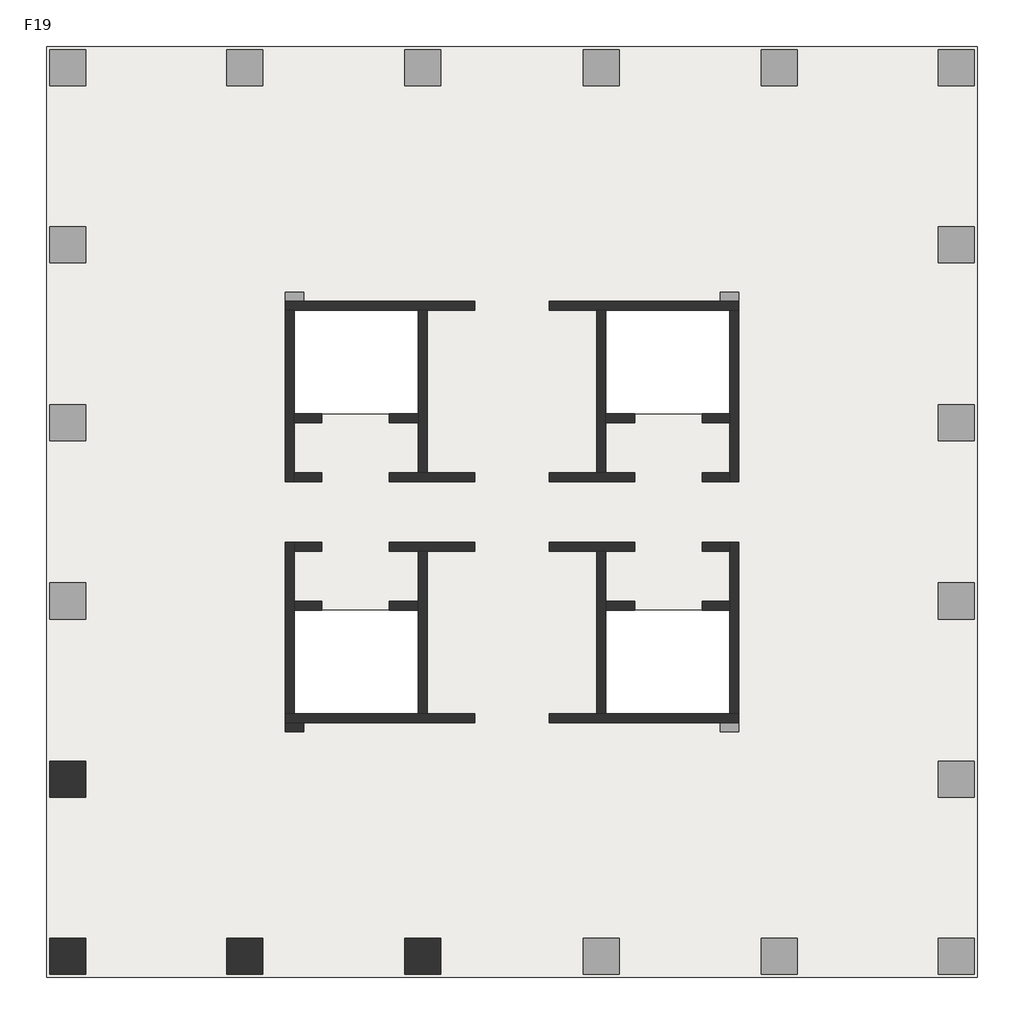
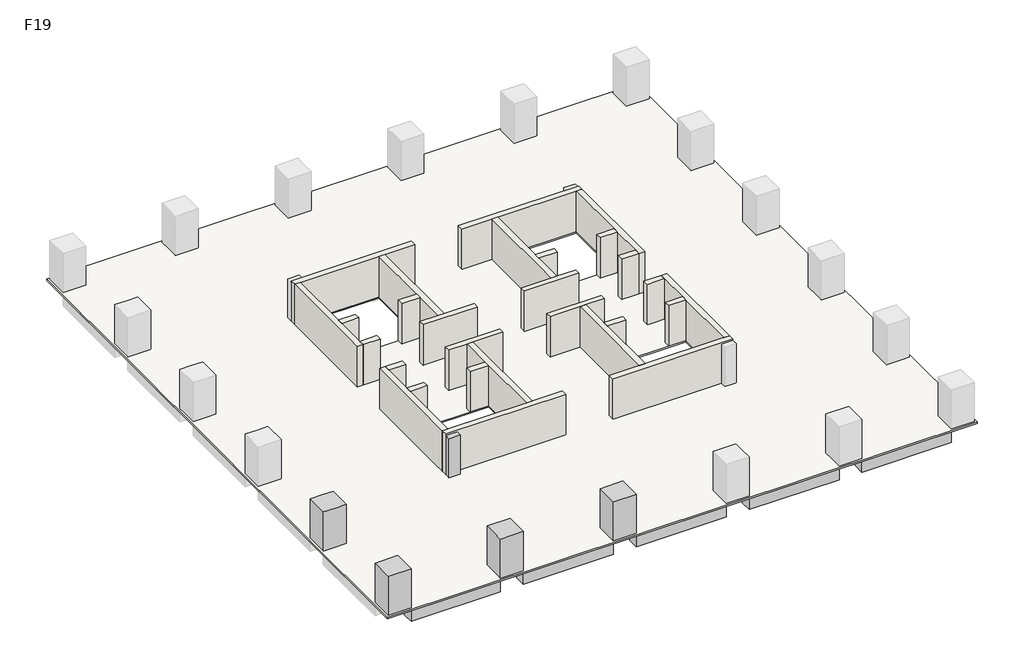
# One storey, part 1 of 2: 28 walls, 5 columns, 3 beams, 1 slab.
"""IFC4 building model written with IfcOpenShell, lengths in millimetres."""

from ifc_helpers import new_model, si_unit, frame, origin, place, context, project, spatial, polyline, outline, extrude, faceted_brep, element, save

model = new_model("IFC4")

# Units and contexts
model_context = context("Model", 3, world=origin())
ifc_project = project(units=[si_unit("LENGTHUNIT", "METRE", prefix="MILLI")], contexts=[model_context])

# Site, building, storey
site = spatial("IfcSite", under=ifc_project)
building = spatial("IfcBuilding", under=site)
storey = spatial("IfcBuildingStorey", under=building, Name="F19", Elevation=75000.0)

# Beams
placement = place(None, origin())
element("IfcBeam", 1, ObjectType="混凝土 - 矩形梁 : KL(5)-800x1000", at=placement, inside=storey, context=model_context, shape_type="SweptSolid", body=[
    extrude(outline(polyline([(-12472.6742169, -13948.9501342), (-12472.6742169, -13148.9501342), (-6222.6742169, -13148.9501342), (-6222.6742169, -13948.9501342), (-12472.6742169, -13948.9501342)])), frame((0.0, 0.0, 74000.0), z_axis=(0.0, 0.0, 1.0), x_axis=(1.0, 0.0, 0.0)), (0.0, 0.0, 1.0), 900.0),
    extrude(outline(polyline([(25327.3257831, -13148.9501342), (25327.3257831, -13948.9501342), (19077.3257831, -13948.9501342), (19077.3257831, -13148.9501342), (25327.3257831, -13148.9501342)])), frame((0.0, 0.0, 74000.0), z_axis=(0.0, 0.0, 1.0), x_axis=(1.0, 0.0, 0.0)), (0.0, 0.0, 1.0), 900.0),
    extrude(outline(polyline([(-4622.6742169, -13948.9501342), (-4622.6742169, -13148.9501342), (1677.3257831, -13148.9501342), (1677.3257831, -13948.9501342), (-4622.6742169, -13948.9501342)])), frame((0.0, 0.0, 74000.0), z_axis=(0.0, 0.0, 1.0), x_axis=(1.0, 0.0, 0.0)), (0.0, 0.0, 1.0), 900.0),
    extrude(outline(polyline([(3277.3257831, -13948.9501342), (3277.3257831, -13148.9501342), (9577.3257831, -13148.9501342), (9577.3257831, -13948.9501342), (3277.3257831, -13948.9501342)])), frame((0.0, 0.0, 74000.0), z_axis=(0.0, 0.0, 1.0), x_axis=(1.0, 0.0, 0.0)), (0.0, 0.0, 1.0), 900.0),
    extrude(outline(polyline([(11177.3257831, -13948.9501342), (11177.3257831, -13148.9501342), (17477.3257831, -13148.9501342), (17477.3257831, -13948.9501342), (11177.3257831, -13948.9501342)])), frame((0.0, 0.0, 74000.0), z_axis=(0.0, 0.0, 1.0), x_axis=(1.0, 0.0, 0.0)), (0.0, 0.0, 1.0), 900.0),
])
element("IfcBeam", 2, ObjectType="混凝土 - 矩形梁 : L1-800x500", at=placement, inside=storey, context=model_context, shape_type="Brep", body=[
    faceted_brep([(-12472.6742169, -5512.1353397, 74500.0), (-3746.9473979, -3341.556529, 74500.0), (-3173.6696907, -3198.9501342, 74500.0), (-3173.6696907, -3198.9501342, 74900.0), (-3746.9473979, -3341.556529, 74900.0), (-12472.6742169, -5512.1353397, 74900.0), (-3622.6742169, -3198.9501342, 74500.0), (-12472.6742169, -4687.7549784, 74500.0), (-3622.6742169, -2486.2624411, 74500.0), (-3622.6742169, -2798.9501342, 74500.0), (-12472.6742169, -4687.7549784, 74900.0), (-3622.6742169, -2486.2624411, 74900.0), (-3622.6742169, -3198.9501342, 74900.0)], [[[0, 1, 2, 3, 4, 5]], [[6, 2, 1, 0, 7, 8, 9]], [[8, 7, 10, 11]], [[2, 6, 12, 3]], [[9, 8, 11, 12, 6]], [[7, 0, 5, 10]], [[5, 4, 3, 12, 11, 10]]]),
])
element("IfcBeam", 3, ObjectType="混凝土 - 矩形梁 : L1-800x500", at=placement, inside=storey, context=model_context, shape_type="SweptSolid", body=[
    extrude(outline(polyline([(-3746.9473979, -3341.556529), (-3173.6696907, -3198.9501342), (-2898.7618154, -3198.9501342), (-4843.6893517, -12348.9501342), (-5661.5624638, -12348.9501342), (-3746.9473979, -3341.556529)])), frame((0.0, 0.0, 74500.0), z_axis=(0.0, 0.0, 1.0), x_axis=(1.0, 0.0, 0.0)), (0.0, 0.0, 1.0), 400.0),
])

# Columns
element("IfcColumn", 4, ObjectType="混凝土 - 矩形 - 柱 : Z1-1600x1600", at=placement, inside=storey, context=model_context, shape_type="Brep", body=[
    faceted_brep([(-12472.6742169, -4498.9501342, 75000.0), (-12472.6742169, -6098.9501342, 75000.0), (-14072.6742169, -6098.9501342, 75000.0), (-14072.6742169, -4498.9501342, 75000.0), (-12472.6742169, -4498.9501342, 77900.0), (-12472.6742169, -6098.9501342, 77900.0), (-13272.6742169, -6098.9501342, 77900.0), (-14072.6742169, -6098.9501342, 77900.0), (-14072.6742169, -6098.9501342, 77000.0), (-14072.6742169, -4498.9501342, 77900.0), (-14072.6742169, -4498.9501342, 77000.0), (-13272.6742169, -4498.9501342, 77900.0)], [[[0, 1, 2, 3]], [[1, 0, 4, 5]], [[2, 1, 5, 6, 7, 8]], [[3, 2, 8, 7, 9, 10]], [[0, 3, 10, 9, 11, 4]], [[5, 4, 11, 9, 7, 6]]]),
])
element("IfcColumn", 5, ObjectType="混凝土 - 矩形 - 柱 : Z1-1600x1600", at=placement, inside=storey, context=model_context, shape_type="SweptSolid", body=[
    extrude(outline(polyline([(-12472.6742169, -12348.9501342), (-12472.6742169, -13948.9501342), (-14072.6742169, -13948.9501342), (-14072.6742169, -12348.9501342), (-12472.6742169, -12348.9501342)])), frame((0.0, 0.0, 75000.0), z_axis=(0.0, 0.0, 1.0), x_axis=(1.0, 0.0, 0.0)), (0.0, 0.0, 1.0), 2900.0),
])
element("IfcColumn", 6, ObjectType="混凝土 - 矩形 - 柱 : Z1-1600x1600", at=placement, inside=storey, context=model_context, shape_type="Brep", body=[
    faceted_brep([(-4622.6742169, -12348.9501342, 75000.0), (-4622.6742169, -13948.9501342, 75000.0), (-6222.6742169, -13948.9501342, 75000.0), (-6222.6742169, -12348.9501342, 75000.0), (-4622.6742169, -12348.9501342, 77900.0), (-4622.6742169, -13148.9501342, 77900.0), (-4622.6742169, -13948.9501342, 77900.0), (-4622.6742169, -13948.9501342, 77000.0), (-6222.6742169, -13948.9501342, 77900.0), (-6222.6742169, -13948.9501342, 77000.0), (-6222.6742169, -13148.9501342, 77900.0), (-6222.6742169, -12348.9501342, 77900.0)], [[[0, 1, 2, 3]], [[1, 0, 4, 5, 6, 7]], [[2, 1, 7, 6, 8, 9]], [[3, 2, 9, 8, 10, 11]], [[0, 3, 11, 4]], [[6, 5, 4, 11, 10, 8]]]),
])
element("IfcColumn", 7, ObjectType="混凝土 - 矩形 - 柱 : Z1-1600x1600", at=placement, inside=storey, context=model_context, shape_type="Brep", body=[
    faceted_brep([(3277.3257831, -12348.9501342, 75000.0), (3277.3257831, -13948.9501342, 75000.0), (1677.3257831, -13948.9501342, 75000.0), (1677.3257831, -12348.9501342, 75000.0), (3277.3257831, -12348.9501342, 77900.0), (3277.3257831, -13148.9501342, 77900.0), (3277.3257831, -13948.9501342, 77900.0), (3277.3257831, -13948.9501342, 77000.0), (1677.3257831, -13948.9501342, 77900.0), (1677.3257831, -13948.9501342, 77000.0), (1677.3257831, -13148.9501342, 77900.0), (1677.3257831, -12348.9501342, 77900.0)], [[[0, 1, 2, 3]], [[1, 0, 4, 5, 6, 7]], [[2, 1, 7, 6, 8, 9]], [[3, 2, 9, 8, 10, 11]], [[0, 3, 11, 4]], [[6, 5, 4, 11, 10, 8]]]),
])
element("IfcColumn", 8, ObjectType="混凝土 - 矩形 - 柱 : Z2-800x800", at=placement, inside=storey, context=model_context, shape_type="SweptSolid", body=[
    extrude(outline(polyline([(-2822.6742169, -3198.9501342), (-3622.6742169, -3198.9501342), (-3622.6742169, -2798.9501342), (-2822.6742169, -2798.9501342), (-2822.6742169, -3198.9501342)])), frame((0.0, 0.0, 75000.0), z_axis=(0.0, 0.0, 1.0), x_axis=(1.0, 0.0, 0.0)), (0.0, 0.0, 1.0), 2900.0),
])

# Slab
element("IfcSlab", 9, ObjectType="LB-100", at=placement, inside=storey, context=model_context, shape_type="SweptSolid", body=[
    extrude(outline(polyline([(27077.3257831, 27201.0498658), (27077.3257831, -14085.2672073), (-14222.6742169, -14085.2672073), (-14222.6742169, 27201.0498658), (27077.3257831, 27201.0498658)]), holes=[polyline([(2277.3257831, 15501.0498658), (-3222.6742169, 15501.0498658), (-3222.6742169, 10901.0498658), (2277.3257831, 10901.0498658), (2277.3257831, 15501.0498658)]), polyline([(2277.3257831, 2201.0498658), (-3222.6742169, 2201.0498658), (-3222.6742169, -2398.9501342), (2277.3257831, -2398.9501342), (2277.3257831, 2201.0498658)]), polyline([(16077.3257831, 2201.0498658), (10577.3257831, 2201.0498658), (10577.3257831, -2398.9501342), (16077.3257831, -2398.9501342), (16077.3257831, 2201.0498658)]), polyline([(16077.3257831, 15501.0498658), (10577.3257831, 15501.0498658), (10577.3257831, 10901.0498658), (16077.3257831, 10901.0498658), (16077.3257831, 15501.0498658)])]), frame((0.0, 0.0, 74900.0), z_axis=(0.0, 0.0, 1.0), x_axis=(1.0, 0.0, 0.0)), (0.0, 0.0, 1.0), 100.0),
])

# Walls
element("IfcWall", 10, ObjectType="剪力墙-400", at=placement, inside=storey, context=model_context, shape_type="Brep", body=[
    faceted_brep([(-3622.6742169, 15501.0498658, 75000.0), (-3222.6742169, 15501.0498658, 75000.0), (2277.3257831, 15501.0498658, 75000.0), (2677.3257831, 15501.0498658, 75000.0), (4777.3257831, 15501.0498658, 75000.0), (4777.3257831, 15501.0498658, 78000.0), (2677.3257831, 15501.0498658, 78000.0), (2277.3257831, 15501.0498658, 78000.0), (-3222.6742169, 15501.0498658, 78000.0), (-3622.6742169, 15501.0498658, 78000.0), (-3622.6742169, 15901.0498658, 75000.0), (-3622.6742169, 15901.0498658, 77900.0), (-3622.6742169, 15901.0498658, 78000.0), (4777.3257831, 15901.0498658, 78000.0), (4777.3257831, 15901.0498658, 75000.0), (-2822.6742169, 15901.0498658, 75000.0)], [[[0, 1, 2, 3, 4, 5, 6, 7, 8, 9]], [[10, 11, 12, 13, 14, 15]], [[4, 3, 2, 1, 0, 10, 15, 14]], [[5, 4, 14, 13]], [[9, 8, 7, 6, 5, 13, 12]], [[0, 9, 12, 11, 10]]]),
])
element("IfcWall", 11, ObjectType="剪力墙-400", at=placement, inside=storey, context=model_context, shape_type="Brep", body=[
    faceted_brep([(2277.3257831, 15501.0498658, 75000.0), (2277.3257831, 10901.0498658, 75000.0), (2277.3257831, 10501.0498658, 75000.0), (2277.3257831, 8301.0498658, 75000.0), (2277.3257831, 8301.0498658, 78000.0), (2277.3257831, 10501.0498658, 78000.0), (2277.3257831, 10901.0498658, 78000.0), (2277.3257831, 15501.0498658, 78000.0), (2677.3257831, 15501.0498658, 75000.0), (2677.3257831, 15501.0498658, 78000.0), (2677.3257831, 8301.0498658, 78000.0), (2677.3257831, 8301.0498658, 75000.0)], [[[0, 1, 2, 3, 4, 5, 6, 7]], [[8, 9, 10, 11]], [[3, 2, 1, 0, 8, 11]], [[7, 6, 5, 4, 10, 9]], [[0, 7, 9, 8]], [[4, 3, 11, 10]]]),
])
element("IfcWall", 12, ObjectType="剪力墙-400", at=placement, inside=storey, context=model_context, shape_type="Brep", body=[
    faceted_brep([(-3622.6742169, 15501.0498658, 75000.0), (-3622.6742169, 7901.0498658, 75000.0), (-3622.6742169, 7901.0498658, 78000.0), (-3622.6742169, 15501.0498658, 78000.0), (-3222.6742169, 15501.0498658, 75000.0), (-3222.6742169, 15501.0498658, 78000.0), (-3222.6742169, 10901.0498658, 78000.0), (-3222.6742169, 10501.0498658, 78000.0), (-3222.6742169, 8301.0498658, 78000.0), (-3222.6742169, 7901.0498658, 78000.0), (-3222.6742169, 7901.0498658, 75000.0), (-3222.6742169, 8301.0498658, 75000.0), (-3222.6742169, 10501.0498658, 75000.0), (-3222.6742169, 10901.0498658, 75000.0)], [[[0, 1, 2, 3]], [[4, 5, 6, 7, 8, 9, 10, 11, 12, 13]], [[1, 0, 4, 13, 12, 11, 10]], [[3, 2, 9, 8, 7, 6, 5]], [[0, 3, 5, 4]], [[2, 1, 10, 9]]]),
])
element("IfcWall", 13, ObjectType="剪力墙-400", at=placement, inside=storey, context=model_context, shape_type="SweptSolid", body=[
    extrude(outline(polyline([(-2022.6742169, 7901.0498658), (-3222.6742169, 7901.0498658), (-3222.6742169, 8301.0498658), (-2022.6742169, 8301.0498658), (-2022.6742169, 7901.0498658)])), frame((0.0, 0.0, 75000.0), z_axis=(0.0, 0.0, 1.0), x_axis=(1.0, 0.0, 0.0)), (0.0, 0.0, 1.0), 3000.0),
])
element("IfcWall", 14, ObjectType="剪力墙-400", at=placement, inside=storey, context=model_context, shape_type="Brep", body=[
    faceted_brep([(977.3257831, 7901.0498658, 75000.0), (4777.3257831, 7901.0498658, 75000.0), (4777.3257831, 7901.0498658, 78000.0), (977.3257831, 7901.0498658, 78000.0), (977.3257831, 8301.0498658, 75000.0), (977.3257831, 8301.0498658, 78000.0), (2277.3257831, 8301.0498658, 78000.0), (2677.3257831, 8301.0498658, 78000.0), (4777.3257831, 8301.0498658, 78000.0), (4777.3257831, 8301.0498658, 75000.0), (2677.3257831, 8301.0498658, 75000.0), (2277.3257831, 8301.0498658, 75000.0)], [[[0, 1, 2, 3]], [[4, 5, 6, 7, 8, 9, 10, 11]], [[1, 0, 4, 11, 10, 9]], [[2, 1, 9, 8]], [[3, 2, 8, 7, 6, 5]], [[0, 3, 5, 4]]]),
])
element("IfcWall", 15, ObjectType="剪力墙-400", at=placement, inside=storey, context=model_context, shape_type="SweptSolid", body=[
    extrude(outline(polyline([(-2022.6742169, 10501.0498658), (-3222.6742169, 10501.0498658), (-3222.6742169, 10901.0498658), (-2022.6742169, 10901.0498658), (-2022.6742169, 10501.0498658)])), frame((0.0, 0.0, 75000.0), z_axis=(0.0, 0.0, 1.0), x_axis=(1.0, 0.0, 0.0)), (0.0, 0.0, 1.0), 3000.0),
])
element("IfcWall", 16, ObjectType="剪力墙-400", at=placement, inside=storey, context=model_context, shape_type="SweptSolid", body=[
    extrude(outline(polyline([(2277.3257831, 10501.0498658), (977.3257831, 10501.0498658), (977.3257831, 10901.0498658), (2277.3257831, 10901.0498658), (2277.3257831, 10501.0498658)])), frame((0.0, 0.0, 75000.0), z_axis=(0.0, 0.0, 1.0), x_axis=(1.0, 0.0, 0.0)), (0.0, 0.0, 1.0), 3000.0),
])
element("IfcWall", 17, ObjectType="剪力墙-400", at=placement, inside=storey, context=model_context, shape_type="Brep", body=[
    faceted_brep([(16477.3257831, 15901.0498658, 75000.0), (15677.3257831, 15901.0498658, 75000.0), (8077.3257831, 15901.0498658, 75000.0), (8077.3257831, 15901.0498658, 78000.0), (16477.3257831, 15901.0498658, 78000.0), (16477.3257831, 15901.0498658, 77900.0), (16477.3257831, 15501.0498658, 75000.0), (16477.3257831, 15501.0498658, 78000.0), (16077.3257831, 15501.0498658, 78000.0), (10577.3257831, 15501.0498658, 78000.0), (10177.3257831, 15501.0498658, 78000.0), (8077.3257831, 15501.0498658, 78000.0), (8077.3257831, 15501.0498658, 75000.0), (10177.3257831, 15501.0498658, 75000.0), (10577.3257831, 15501.0498658, 75000.0), (16077.3257831, 15501.0498658, 75000.0)], [[[0, 1, 2, 3, 4, 5]], [[6, 7, 8, 9, 10, 11, 12, 13, 14, 15]], [[2, 1, 0, 6, 15, 14, 13, 12]], [[3, 2, 12, 11]], [[4, 3, 11, 10, 9, 8, 7]], [[0, 5, 4, 7, 6]]]),
])
element("IfcWall", 18, ObjectType="剪力墙-400", at=placement, inside=storey, context=model_context, shape_type="Brep", body=[
    faceted_brep([(10177.3257831, 15501.0498658, 75000.0), (10177.3257831, 8301.0498658, 75000.0), (10177.3257831, 8301.0498658, 78000.0), (10177.3257831, 15501.0498658, 78000.0), (10577.3257831, 15501.0498658, 75000.0), (10577.3257831, 15501.0498658, 78000.0), (10577.3257831, 10901.0498658, 78000.0), (10577.3257831, 10501.0498658, 78000.0), (10577.3257831, 8301.0498658, 78000.0), (10577.3257831, 8301.0498658, 75000.0), (10577.3257831, 10501.0498658, 75000.0), (10577.3257831, 10901.0498658, 75000.0)], [[[0, 1, 2, 3]], [[4, 5, 6, 7, 8, 9, 10, 11]], [[1, 0, 4, 11, 10, 9]], [[3, 2, 8, 7, 6, 5]], [[0, 3, 5, 4]], [[2, 1, 9, 8]]]),
])
element("IfcWall", 19, ObjectType="剪力墙-400", at=placement, inside=storey, context=model_context, shape_type="Brep", body=[
    faceted_brep([(16077.3257831, 15501.0498658, 75000.0), (16077.3257831, 10901.0498658, 75000.0), (16077.3257831, 10501.0498658, 75000.0), (16077.3257831, 8301.0498658, 75000.0), (16077.3257831, 7901.0498658, 75000.0), (16077.3257831, 7901.0498658, 78000.0), (16077.3257831, 8301.0498658, 78000.0), (16077.3257831, 10501.0498658, 78000.0), (16077.3257831, 10901.0498658, 78000.0), (16077.3257831, 15501.0498658, 78000.0), (16477.3257831, 15501.0498658, 75000.0), (16477.3257831, 15501.0498658, 78000.0), (16477.3257831, 7901.0498658, 78000.0), (16477.3257831, 7901.0498658, 75000.0)], [[[0, 1, 2, 3, 4, 5, 6, 7, 8, 9]], [[10, 11, 12, 13]], [[4, 3, 2, 1, 0, 10, 13]], [[9, 8, 7, 6, 5, 12, 11]], [[0, 9, 11, 10]], [[5, 4, 13, 12]]]),
])
element("IfcWall", 20, ObjectType="剪力墙-400", at=placement, inside=storey, context=model_context, shape_type="SweptSolid", body=[
    extrude(outline(polyline([(14877.3257831, 8301.0498658), (16077.3257831, 8301.0498658), (16077.3257831, 7901.0498658), (14877.3257831, 7901.0498658), (14877.3257831, 8301.0498658)])), frame((0.0, 0.0, 75000.0), z_axis=(0.0, 0.0, 1.0), x_axis=(1.0, 0.0, 0.0)), (0.0, 0.0, 1.0), 3000.0),
])
element("IfcWall", 21, ObjectType="剪力墙-400", at=placement, inside=storey, context=model_context, shape_type="Brep", body=[
    faceted_brep([(11877.3257831, 8301.0498658, 75000.0), (10577.3257831, 8301.0498658, 75000.0), (10177.3257831, 8301.0498658, 75000.0), (8077.3257831, 8301.0498658, 75000.0), (8077.3257831, 8301.0498658, 78000.0), (10177.3257831, 8301.0498658, 78000.0), (10577.3257831, 8301.0498658, 78000.0), (11877.3257831, 8301.0498658, 78000.0), (11877.3257831, 7901.0498658, 75000.0), (11877.3257831, 7901.0498658, 78000.0), (8077.3257831, 7901.0498658, 78000.0), (8077.3257831, 7901.0498658, 75000.0)], [[[0, 1, 2, 3, 4, 5, 6, 7]], [[8, 9, 10, 11]], [[3, 2, 1, 0, 8, 11]], [[4, 3, 11, 10]], [[7, 6, 5, 4, 10, 9]], [[0, 7, 9, 8]]]),
])
element("IfcWall", 22, ObjectType="剪力墙-400", at=placement, inside=storey, context=model_context, shape_type="SweptSolid", body=[
    extrude(outline(polyline([(14877.3257831, 10901.0498658), (16077.3257831, 10901.0498658), (16077.3257831, 10501.0498658), (14877.3257831, 10501.0498658), (14877.3257831, 10901.0498658)])), frame((0.0, 0.0, 75000.0), z_axis=(0.0, 0.0, 1.0), x_axis=(1.0, 0.0, 0.0)), (0.0, 0.0, 1.0), 3000.0),
])
element("IfcWall", 23, ObjectType="剪力墙-400", at=placement, inside=storey, context=model_context, shape_type="SweptSolid", body=[
    extrude(outline(polyline([(10577.3257831, 10901.0498658), (11877.3257831, 10901.0498658), (11877.3257831, 10501.0498658), (10577.3257831, 10501.0498658), (10577.3257831, 10901.0498658)])), frame((0.0, 0.0, 75000.0), z_axis=(0.0, 0.0, 1.0), x_axis=(1.0, 0.0, 0.0)), (0.0, 0.0, 1.0), 3000.0),
])
element("IfcWall", 24, ObjectType="剪力墙-400", at=placement, inside=storey, context=model_context, shape_type="Brep", body=[
    faceted_brep([(-3622.6742169, -2798.9501342, 75000.0), (-2822.6742169, -2798.9501342, 75000.0), (4777.3257831, -2798.9501342, 75000.0), (4777.3257831, -2798.9501342, 78000.0), (-3622.6742169, -2798.9501342, 78000.0), (-3622.6742169, -2798.9501342, 77900.0), (-3622.6742169, -2398.9501342, 75000.0), (-3622.6742169, -2398.9501342, 78000.0), (-3222.6742169, -2398.9501342, 78000.0), (2277.3257831, -2398.9501342, 78000.0), (2677.3257831, -2398.9501342, 78000.0), (4777.3257831, -2398.9501342, 78000.0), (4777.3257831, -2398.9501342, 75000.0), (2677.3257831, -2398.9501342, 75000.0), (2277.3257831, -2398.9501342, 75000.0), (-3222.6742169, -2398.9501342, 75000.0)], [[[0, 1, 2, 3, 4, 5]], [[6, 7, 8, 9, 10, 11, 12, 13, 14, 15]], [[2, 1, 0, 6, 15, 14, 13, 12]], [[3, 2, 12, 11]], [[4, 3, 11, 10, 9, 8, 7]], [[0, 5, 4, 7, 6]]]),
])
element("IfcWall", 25, ObjectType="剪力墙-400", at=placement, inside=storey, context=model_context, shape_type="Brep", body=[
    faceted_brep([(2677.3257831, -2398.9501342, 75000.0), (2677.3257831, 4801.0498658, 75000.0), (2677.3257831, 4801.0498658, 78000.0), (2677.3257831, -2398.9501342, 78000.0), (2277.3257831, -2398.9501342, 75000.0), (2277.3257831, -2398.9501342, 78000.0), (2277.3257831, 2201.0498658, 78000.0), (2277.3257831, 2601.0498658, 78000.0), (2277.3257831, 4801.0498658, 78000.0), (2277.3257831, 4801.0498658, 75000.0), (2277.3257831, 2601.0498658, 75000.0), (2277.3257831, 2201.0498658, 75000.0)], [[[0, 1, 2, 3]], [[4, 5, 6, 7, 8, 9, 10, 11]], [[1, 0, 4, 11, 10, 9]], [[3, 2, 8, 7, 6, 5]], [[0, 3, 5, 4]], [[2, 1, 9, 8]]]),
])
element("IfcWall", 26, ObjectType="剪力墙-400", at=placement, inside=storey, context=model_context, shape_type="Brep", body=[
    faceted_brep([(-3222.6742169, -2398.9501342, 75000.0), (-3222.6742169, 2201.0498658, 75000.0), (-3222.6742169, 2601.0498658, 75000.0), (-3222.6742169, 4801.0498658, 75000.0), (-3222.6742169, 5201.0498658, 75000.0), (-3222.6742169, 5201.0498658, 78000.0), (-3222.6742169, 4801.0498658, 78000.0), (-3222.6742169, 2601.0498658, 78000.0), (-3222.6742169, 2201.0498658, 78000.0), (-3222.6742169, -2398.9501342, 78000.0), (-3622.6742169, -2398.9501342, 75000.0), (-3622.6742169, -2398.9501342, 78000.0), (-3622.6742169, 5201.0498658, 78000.0), (-3622.6742169, 5201.0498658, 75000.0)], [[[0, 1, 2, 3, 4, 5, 6, 7, 8, 9]], [[10, 11, 12, 13]], [[4, 3, 2, 1, 0, 10, 13]], [[9, 8, 7, 6, 5, 12, 11]], [[0, 9, 11, 10]], [[5, 4, 13, 12]]]),
])
element("IfcWall", 27, ObjectType="剪力墙-400", at=placement, inside=storey, context=model_context, shape_type="SweptSolid", body=[
    extrude(outline(polyline([(-2022.6742169, 4801.0498658), (-3222.6742169, 4801.0498658), (-3222.6742169, 5201.0498658), (-2022.6742169, 5201.0498658), (-2022.6742169, 4801.0498658)])), frame((0.0, 0.0, 75000.0), z_axis=(0.0, 0.0, 1.0), x_axis=(1.0, 0.0, 0.0)), (0.0, 0.0, 1.0), 3000.0),
])
element("IfcWall", 28, ObjectType="剪力墙-400", at=placement, inside=storey, context=model_context, shape_type="Brep", body=[
    faceted_brep([(977.3257831, 4801.0498658, 75000.0), (2277.3257831, 4801.0498658, 75000.0), (2677.3257831, 4801.0498658, 75000.0), (4777.3257831, 4801.0498658, 75000.0), (4777.3257831, 4801.0498658, 78000.0), (2677.3257831, 4801.0498658, 78000.0), (2277.3257831, 4801.0498658, 78000.0), (977.3257831, 4801.0498658, 78000.0), (977.3257831, 5201.0498658, 75000.0), (977.3257831, 5201.0498658, 78000.0), (4777.3257831, 5201.0498658, 78000.0), (4777.3257831, 5201.0498658, 75000.0)], [[[0, 1, 2, 3, 4, 5, 6, 7]], [[8, 9, 10, 11]], [[3, 2, 1, 0, 8, 11]], [[4, 3, 11, 10]], [[7, 6, 5, 4, 10, 9]], [[0, 7, 9, 8]]]),
])
element("IfcWall", 29, ObjectType="剪力墙-400", at=placement, inside=storey, context=model_context, shape_type="SweptSolid", body=[
    extrude(outline(polyline([(-2022.6742169, 2201.0498658), (-3222.6742169, 2201.0498658), (-3222.6742169, 2601.0498658), (-2022.6742169, 2601.0498658), (-2022.6742169, 2201.0498658)])), frame((0.0, 0.0, 75000.0), z_axis=(0.0, 0.0, 1.0), x_axis=(1.0, 0.0, 0.0)), (0.0, 0.0, 1.0), 3000.0),
])
element("IfcWall", 30, ObjectType="剪力墙-400", at=placement, inside=storey, context=model_context, shape_type="SweptSolid", body=[
    extrude(outline(polyline([(2277.3257831, 2201.0498658), (977.3257831, 2201.0498658), (977.3257831, 2601.0498658), (2277.3257831, 2601.0498658), (2277.3257831, 2201.0498658)])), frame((0.0, 0.0, 75000.0), z_axis=(0.0, 0.0, 1.0), x_axis=(1.0, 0.0, 0.0)), (0.0, 0.0, 1.0), 3000.0),
])
element("IfcWall", 31, ObjectType="剪力墙-400", at=placement, inside=storey, context=model_context, shape_type="Brep", body=[
    faceted_brep([(16477.3257831, -2398.9501342, 75000.0), (16077.3257831, -2398.9501342, 75000.0), (10577.3257831, -2398.9501342, 75000.0), (10177.3257831, -2398.9501342, 75000.0), (8077.3257831, -2398.9501342, 75000.0), (8077.3257831, -2398.9501342, 78000.0), (10177.3257831, -2398.9501342, 78000.0), (10577.3257831, -2398.9501342, 78000.0), (16077.3257831, -2398.9501342, 78000.0), (16477.3257831, -2398.9501342, 78000.0), (16477.3257831, -2798.9501342, 75000.0), (16477.3257831, -2798.9501342, 77900.0), (16477.3257831, -2798.9501342, 78000.0), (8077.3257831, -2798.9501342, 78000.0), (8077.3257831, -2798.9501342, 75000.0), (15677.3257831, -2798.9501342, 75000.0)], [[[0, 1, 2, 3, 4, 5, 6, 7, 8, 9]], [[10, 11, 12, 13, 14, 15]], [[4, 3, 2, 1, 0, 10, 15, 14]], [[5, 4, 14, 13]], [[9, 8, 7, 6, 5, 13, 12]], [[0, 9, 12, 11, 10]]]),
])
element("IfcWall", 32, ObjectType="剪力墙-400", at=placement, inside=storey, context=model_context, shape_type="Brep", body=[
    faceted_brep([(10577.3257831, -2398.9501342, 75000.0), (10577.3257831, 2201.0498658, 75000.0), (10577.3257831, 2601.0498658, 75000.0), (10577.3257831, 4801.0498658, 75000.0), (10577.3257831, 4801.0498658, 78000.0), (10577.3257831, 2601.0498658, 78000.0), (10577.3257831, 2201.0498658, 78000.0), (10577.3257831, -2398.9501342, 78000.0), (10177.3257831, -2398.9501342, 75000.0), (10177.3257831, -2398.9501342, 78000.0), (10177.3257831, 4801.0498658, 78000.0), (10177.3257831, 4801.0498658, 75000.0)], [[[0, 1, 2, 3, 4, 5, 6, 7]], [[8, 9, 10, 11]], [[3, 2, 1, 0, 8, 11]], [[7, 6, 5, 4, 10, 9]], [[0, 7, 9, 8]], [[4, 3, 11, 10]]]),
])
element("IfcWall", 33, ObjectType="剪力墙-400", at=placement, inside=storey, context=model_context, shape_type="Brep", body=[
    faceted_brep([(16477.3257831, -2398.9501342, 75000.0), (16477.3257831, 5201.0498658, 75000.0), (16477.3257831, 5201.0498658, 78000.0), (16477.3257831, -2398.9501342, 78000.0), (16077.3257831, -2398.9501342, 75000.0), (16077.3257831, -2398.9501342, 78000.0), (16077.3257831, 2201.0498658, 78000.0), (16077.3257831, 2601.0498658, 78000.0), (16077.3257831, 4801.0498658, 78000.0), (16077.3257831, 5201.0498658, 78000.0), (16077.3257831, 5201.0498658, 75000.0), (16077.3257831, 4801.0498658, 75000.0), (16077.3257831, 2601.0498658, 75000.0), (16077.3257831, 2201.0498658, 75000.0)], [[[0, 1, 2, 3]], [[4, 5, 6, 7, 8, 9, 10, 11, 12, 13]], [[1, 0, 4, 13, 12, 11, 10]], [[3, 2, 9, 8, 7, 6, 5]], [[0, 3, 5, 4]], [[2, 1, 10, 9]]]),
])
element("IfcWall", 34, ObjectType="剪力墙-400", at=placement, inside=storey, context=model_context, shape_type="SweptSolid", body=[
    extrude(outline(polyline([(14877.3257831, 5201.0498658), (16077.3257831, 5201.0498658), (16077.3257831, 4801.0498658), (14877.3257831, 4801.0498658), (14877.3257831, 5201.0498658)])), frame((0.0, 0.0, 75000.0), z_axis=(0.0, 0.0, 1.0), x_axis=(1.0, 0.0, 0.0)), (0.0, 0.0, 1.0), 3000.0),
])
element("IfcWall", 35, ObjectType="剪力墙-400", at=placement, inside=storey, context=model_context, shape_type="Brep", body=[
    faceted_brep([(11877.3257831, 5201.0498658, 75000.0), (8077.3257831, 5201.0498658, 75000.0), (8077.3257831, 5201.0498658, 78000.0), (11877.3257831, 5201.0498658, 78000.0), (11877.3257831, 4801.0498658, 75000.0), (11877.3257831, 4801.0498658, 78000.0), (10577.3257831, 4801.0498658, 78000.0), (10177.3257831, 4801.0498658, 78000.0), (8077.3257831, 4801.0498658, 78000.0), (8077.3257831, 4801.0498658, 75000.0), (10177.3257831, 4801.0498658, 75000.0), (10577.3257831, 4801.0498658, 75000.0)], [[[0, 1, 2, 3]], [[4, 5, 6, 7, 8, 9, 10, 11]], [[1, 0, 4, 11, 10, 9]], [[2, 1, 9, 8]], [[3, 2, 8, 7, 6, 5]], [[0, 3, 5, 4]]]),
])
element("IfcWall", 36, ObjectType="剪力墙-400", at=placement, inside=storey, context=model_context, shape_type="SweptSolid", body=[
    extrude(outline(polyline([(14877.3257831, 2601.0498658), (16077.3257831, 2601.0498658), (16077.3257831, 2201.0498658), (14877.3257831, 2201.0498658), (14877.3257831, 2601.0498658)])), frame((0.0, 0.0, 75000.0), z_axis=(0.0, 0.0, 1.0), x_axis=(1.0, 0.0, 0.0)), (0.0, 0.0, 1.0), 3000.0),
])
element("IfcWall", 37, ObjectType="剪力墙-400", at=placement, inside=storey, context=model_context, shape_type="SweptSolid", body=[
    extrude(outline(polyline([(10577.3257831, 2601.0498658), (11877.3257831, 2601.0498658), (11877.3257831, 2201.0498658), (10577.3257831, 2201.0498658), (10577.3257831, 2601.0498658)])), frame((0.0, 0.0, 75000.0), z_axis=(0.0, 0.0, 1.0), x_axis=(1.0, 0.0, 0.0)), (0.0, 0.0, 1.0), 3000.0),
])

save(model, "model.ifc")
